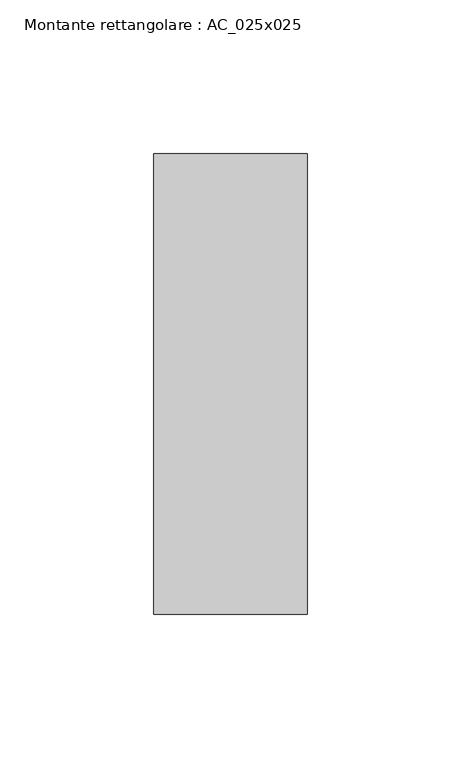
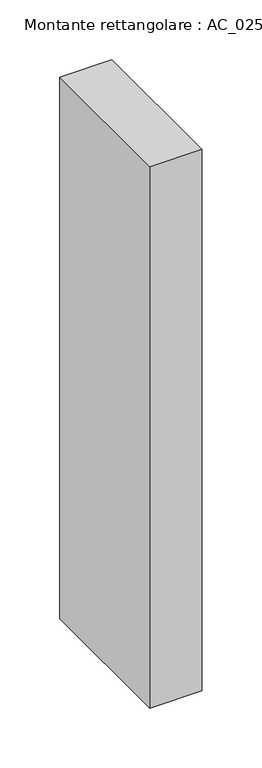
"""IFC4 building model written with IfcOpenShell, lengths in millimetres: member geometry, Montante rettangolare : AC_025x025."""

from ifc_helpers import new_model, si_unit, frame, origin, place, context, project, spatial, polyline, outline, extrude, source, transform, mapped, element, save


def montante_rettangolare_ac_025x025_67f37333(model_context):
    return source(origin(), model_context, "Body", "SweptSolid", [
        extrude(outline(polyline([(0.0, 75.0), (0.0, -75.0), (-50.0, -75.0), (-50.0, 75.0), (0.0, 75.0)])), frame((0.0, 0.0, -551.0967079), z_axis=(0.0, 0.0, 1.0), x_axis=(1.0, 0.0, 0.0)), (0.0, 0.0, 1.0), 551.0967079),
    ])


if __name__ == "__main__":
    model = new_model("IFC4")
    model_context = context("Model", 3, world=origin())
    ifc_project = project(units=[si_unit("LENGTHUNIT", "METRE", prefix="MILLI")], contexts=[model_context])
    site = spatial("IfcSite", under=ifc_project)
    building = spatial("IfcBuilding", under=site)
    placement = place(None, origin())
    montante_rettangolare_ac_025x025_shape = montante_rettangolare_ac_025x025_67f37333(model_context)
    element("IfcMember", 1, ObjectType="Montante rettangolare : AC_025x025", at=placement, inside=building, context=model_context, shape_type="MappedRepresentation", body=[
        mapped(montante_rettangolare_ac_025x025_shape, transform((0.0, 0.0, 0.0), x_axis=(1.0, 0.0, 0.0), y_axis=(0.0, 1.0, 0.0), z_axis=(0.0, 0.0, 1.0))),
    ])
    save(model, "model.ifc")
